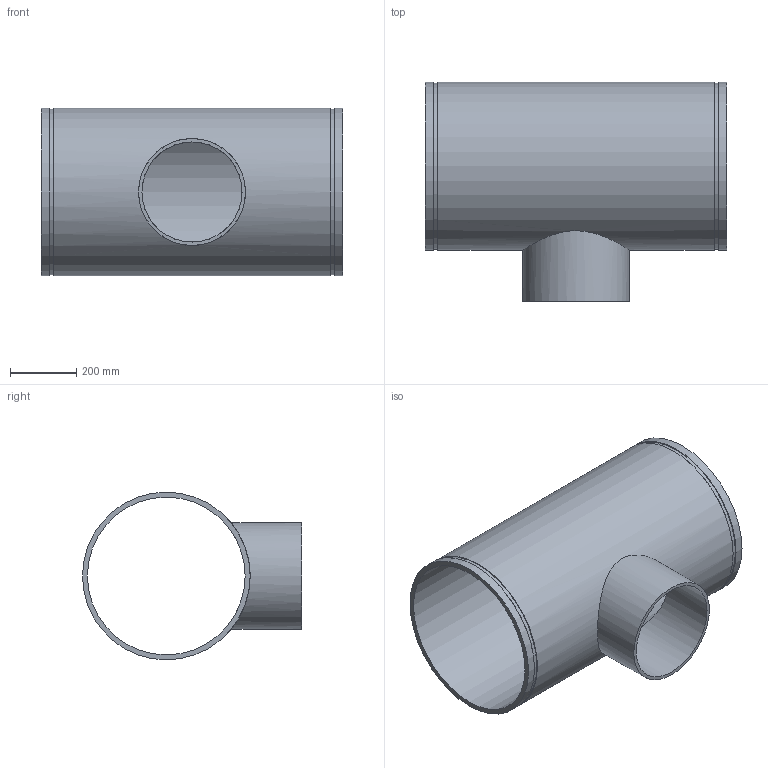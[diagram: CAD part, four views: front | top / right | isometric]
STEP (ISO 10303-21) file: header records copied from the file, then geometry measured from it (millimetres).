
FILE_DESCRIPTION(/* description */ ('VIC REDUCING TEE No 29T FFT (OGSxMPT)','CAx-IF Rec.Pracs.---Representation and Presentation of Product Manufacturing Information (PMI)---4.0---2014-10-13'),/* implementation_level */ '2;1');
FILE_NAME(/* name */ 'C:\Users\kkamble\AppData\Roaming\Autodesk\ApplicationPlugins\Back Up\Victaulic_IPS_Tee Reducing_No 29T FFT (OGSxMPT)\Victaulic_IPS_Tee Reducing_No 29T FFT (OGSxMPT)_20.0x12.0 (500x300).stp',/* time_stamp */ '2020-09-16T22:40:28+05:00',/* author */ ('CORINNE GRAY'),/* organization */ ('Victaulic'),/* preprocessor_version */ 'ST-DEVELOPER v17.2',/* originating_system */ 'Autodesk Inventor 2019',/* authorisation */ '');
FILE_SCHEMA (('AP242_MANAGED_MODEL_BASED_3D_ENGINEERING_MIM_LF { 1 0 10303 442 1 1 4 }'));
Length unit declared in the file: inch
Products named in the file (1): 29 FFT-20.0x12.0
Bounding box: 914.4 x 663.7 x 508 mm (x, y, z)
Volume: 21917477.6 mm3; surface area: 3116997.2 mm2
Topology: 1 solids, 1 shells, 15 faces, 32 edges, 24 vertices
Faces by surface type: cylinder 8, plane 7
Full cylindrical faces by diameter (mm): 303.225 x1, 323.85 x1, 477.876 x1, 502.437 x2, 508 x3
Entity records: 733 total; most frequent: CARTESIAN_POINT 245, DIRECTION 106, ORIENTED_EDGE 64, AXIS2_PLACEMENT_3D 49, EDGE_CURVE 32, EDGE_LOOP 24, VERTEX_POINT 24, CIRCLE 20
